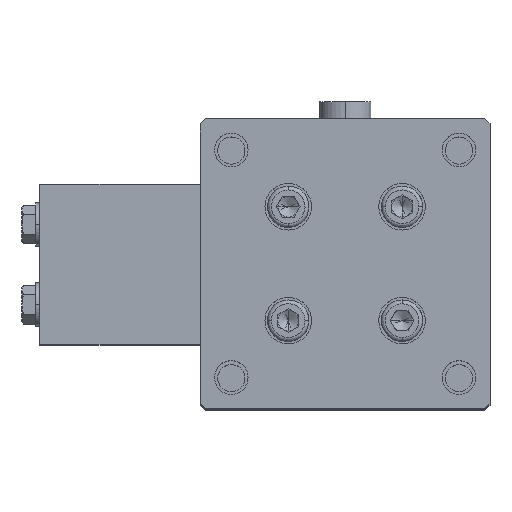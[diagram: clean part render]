
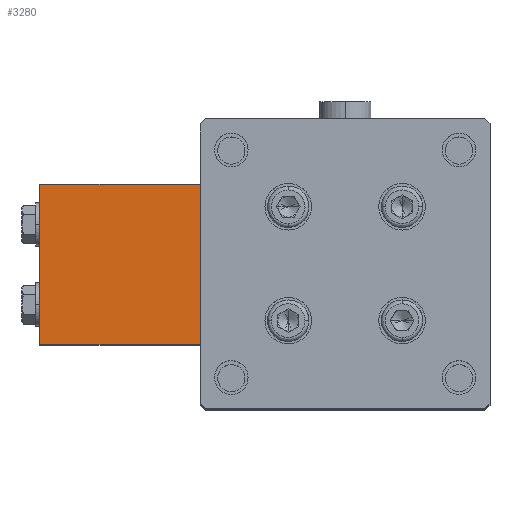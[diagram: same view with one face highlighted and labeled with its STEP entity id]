
A CAD part, top view. The second image highlights one B-rep face of the part: STEP entity #3280.
In plain terms, the highlighted planar face has unit normal (0, 0, 1).
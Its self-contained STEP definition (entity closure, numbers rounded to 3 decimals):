
#40 = EDGE_CURVE ( 'NONE', #10475, #4162, #335, .T. ) ;
#335 = LINE ( 'NONE', #1891, #7418 ) ;
#815 = PLANE ( 'NONE',  #10285 ) ;
#853 = DIRECTION ( 'NONE',  ( 0., 0., -1. ) ) ;
#888 = DIRECTION ( 'NONE',  ( 0., -1., 0. ) ) ;
#1503 = EDGE_CURVE ( 'NONE', #4162, #5854, #9193, .T. ) ;
#1843 = CARTESIAN_POINT ( 'NONE',  ( -118., 0., -158.9 ) ) ;
#1891 = CARTESIAN_POINT ( 'NONE',  ( -87., -31., -158.9 ) ) ;
#3280 = ADVANCED_FACE ( 'NONE', ( #5878 ), #815, .F. ) ;
#3850 = LINE ( 'NONE', #7750, #6399 ) ;
#4162 = VERTEX_POINT ( 'NONE', #12130 ) ;
#5065 = ORIENTED_EDGE ( 'NONE', *, *, #8478, .T. ) ;
#5768 = EDGE_CURVE ( 'NONE', #5854, #11088, #3850, .T. ) ;
#5815 = CARTESIAN_POINT ( 'NONE',  ( -56., 31., -158.9 ) ) ;
#5854 = VERTEX_POINT ( 'NONE', #5815 ) ;
#5878 = FACE_OUTER_BOUND ( 'NONE', #8765, .T. ) ;
#6399 = VECTOR ( 'NONE', #9797, 1000. ) ;
#6659 = DIRECTION ( 'NONE',  ( 1., 0., 0. ) ) ;
#7418 = VECTOR ( 'NONE', #6659, 1000. ) ;
#7529 = DIRECTION ( 'NONE',  ( 0., 1., 0. ) ) ;
#7750 = CARTESIAN_POINT ( 'NONE',  ( -87., 31., -158.9 ) ) ;
#7770 = CARTESIAN_POINT ( 'NONE',  ( -118., 31., -158.9 ) ) ;
#8478 = EDGE_CURVE ( 'NONE', #11088, #10475, #12110, .T. ) ;
#8507 = CARTESIAN_POINT ( 'NONE',  ( -56., -31., -158.9 ) ) ;
#8594 = CARTESIAN_POINT ( 'NONE',  ( -56., 0., -158.9 ) ) ;
#8760 = CARTESIAN_POINT ( 'NONE',  ( -118., -31., -158.9 ) ) ;
#8765 = EDGE_LOOP ( 'NONE', ( #12352, #5065, #11099, #10932 ) ) ;
#9193 = LINE ( 'NONE', #8594, #11781 ) ;
#9493 = VECTOR ( 'NONE', #888, 1000. ) ;
#9797 = DIRECTION ( 'NONE',  ( -1., 0., 0. ) ) ;
#10285 = AXIS2_PLACEMENT_3D ( 'NONE', #8507, #853, #12389 ) ;
#10475 = VERTEX_POINT ( 'NONE', #8760 ) ;
#10932 = ORIENTED_EDGE ( 'NONE', *, *, #1503, .T. ) ;
#11088 = VERTEX_POINT ( 'NONE', #7770 ) ;
#11099 = ORIENTED_EDGE ( 'NONE', *, *, #40, .T. ) ;
#11781 = VECTOR ( 'NONE', #7529, 1000. ) ;
#12110 = LINE ( 'NONE', #1843, #9493 ) ;
#12130 = CARTESIAN_POINT ( 'NONE',  ( -56., -31., -158.9 ) ) ;
#12352 = ORIENTED_EDGE ( 'NONE', *, *, #5768, .T. ) ;
#12389 = DIRECTION ( 'NONE',  ( -1., 0., 0. ) ) ;
